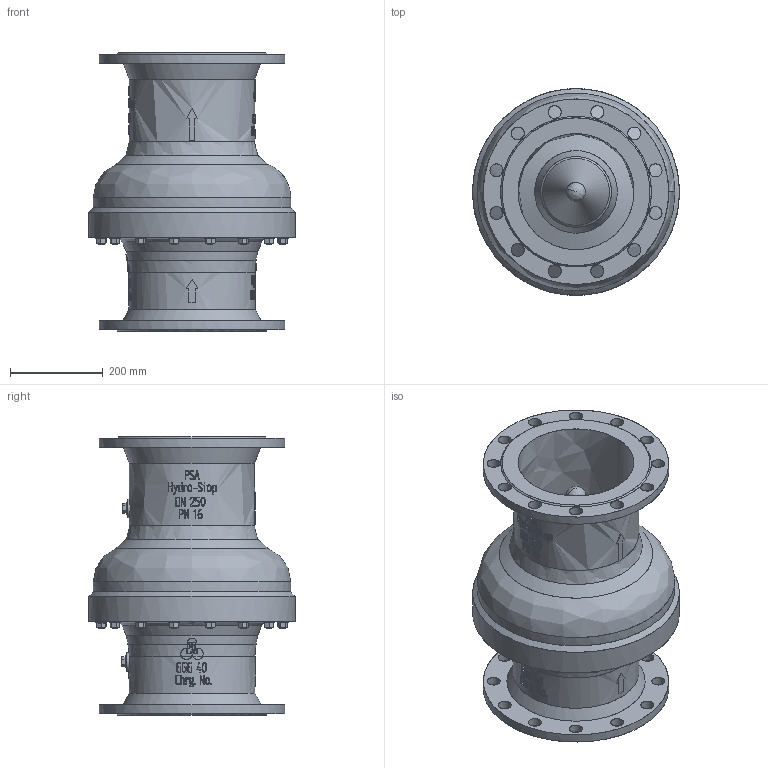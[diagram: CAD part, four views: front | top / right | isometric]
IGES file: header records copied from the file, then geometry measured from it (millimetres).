
Start section: P
Global section: file name: PSA_Hydro-Stop_DN250_PN16.igs; native system: By Siemens PLM Incorporated; preprocessor: XPlus GENERIC/IGES 25.1.153; author: Christin-Michelle Fremgen; organization: PSA Wasserarmaturen GmbH; date: 20241009.155018; units: millimetre
Bounding box: 446 x 445.56 x 600 mm (x, y, z)
Surface area: 1969168.4 mm2 (no closed solid volume)
Topology: 0 solids, 0 shells, 1211 faces, 6401 edges, 6398 vertices
Faces by surface type: bspline 1211
